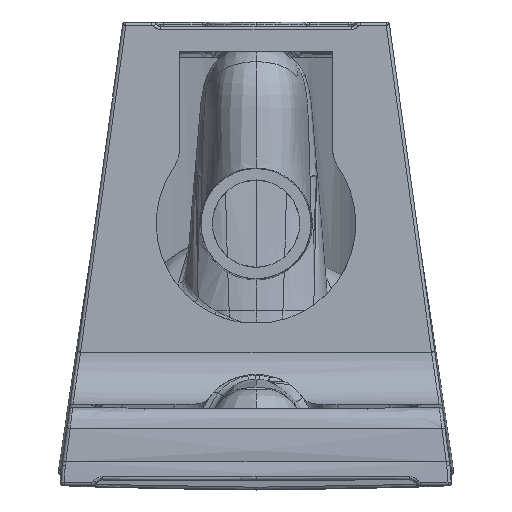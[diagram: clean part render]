
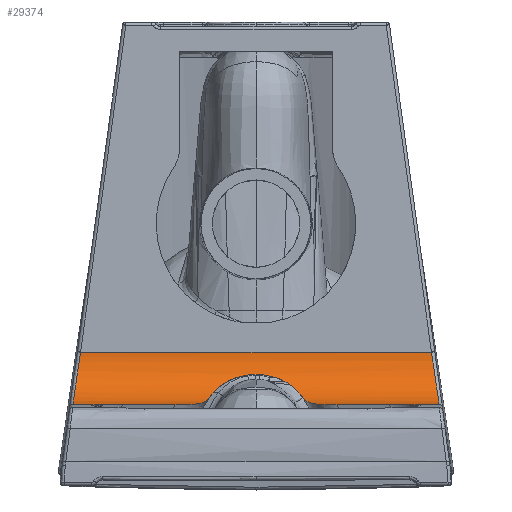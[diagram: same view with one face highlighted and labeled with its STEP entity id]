
A CAD part, front view. The second image highlights one B-rep face of the part: STEP entity #29374.
In plain terms, the highlighted cylindrical face has radius 50 mm (diameter 100 mm), a partial arc.
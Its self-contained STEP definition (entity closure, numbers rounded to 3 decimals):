
#3547=CARTESIAN_POINT('',(-124.104,-227.174,
65.068));
#3567=DIRECTION('',(-1.,0.,0.));
#3568=VECTOR('',#3567,45.72);
#3569=CARTESIAN_POINT('',(169.824,-227.174,65.068));
#3570=LINE('',#3569,#3568);
#3571=DIRECTION('',(-1.,0.,0.));
#3572=VECTOR('',#3571,48.902);
#3573=CARTESIAN_POINT('',(124.104,-227.174,65.068));
#3574=LINE('',#3573,#3572);
#3575=CARTESIAN_POINT('',(43.511,-204.426,71.447));
#3576=CARTESIAN_POINT('',(42.63,-202.209,72.693));
#3577=CARTESIAN_POINT('',(40.563,-198.207,75.382));
#3578=CARTESIAN_POINT('',(36.405,-193.393,79.689));
#3579=CARTESIAN_POINT('',(31.399,-189.818,83.738));
#3580=CARTESIAN_POINT('',(25.011,-187.04,87.612));
#3581=CARTESIAN_POINT('',(17.519,-185.214,90.695));
#3582=CARTESIAN_POINT('',(9.618,-184.207,92.643));
#3583=CARTESIAN_POINT('',(3.337,-183.939,93.201));
#3584=CARTESIAN_POINT('',(0.003,-183.944,
93.19));
#3586=DIRECTION('',(-1.,0.,0.));
#3587=VECTOR('',#3586,48.903);
#3588=CARTESIAN_POINT('',(-75.201,-227.174,
65.068));
#3589=LINE('',#3588,#3587);
#3590=DIRECTION('',(-1.,0.,0.));
#3591=VECTOR('',#3590,45.72);
#3592=CARTESIAN_POINT('',(-124.104,-227.174,
65.068));
#3593=LINE('',#3592,#3591);
#3594=CARTESIAN_POINT('',(-169.825,-227.174,
65.068));
#3595=CARTESIAN_POINT('',(-169.812,-224.048,
65.177));
#3596=CARTESIAN_POINT('',(-169.702,-217.806,
65.984));
#3597=CARTESIAN_POINT('',(-169.28,-208.802,
68.937));
#3598=CARTESIAN_POINT('',(-168.625,-200.496,
73.54));
#3599=CARTESIAN_POINT('',(-167.752,-193.212,
79.613));
#3600=CARTESIAN_POINT('',(-166.679,-187.197,
86.944));
#3601=CARTESIAN_POINT('',(-165.455,-182.65,
95.305));
#3602=CARTESIAN_POINT('',(-164.12,-179.754,
104.398));
#3603=CARTESIAN_POINT('',(-163.198,-179.003,
110.73));
#3604=CARTESIAN_POINT('',(-162.726,-178.932,
113.906));
#3606=DIRECTION('',(1.,0.,0.));
#3607=VECTOR('',#3606,325.451);
#3608=CARTESIAN_POINT('',(-162.726,-178.932,
113.906));
#3609=LINE('',#3608,#3607);
#3610=CARTESIAN_POINT('',(162.725,-178.932,113.906));
#3611=CARTESIAN_POINT('',(164.566,-179.216,101.37));
#3612=CARTESIAN_POINT('',(168.215,-189.685,76.502));
#3613=CARTESIAN_POINT('',(169.779,-214.522,65.51));
#3614=CARTESIAN_POINT('',(169.824,-227.174,65.068));
#6054=CARTESIAN_POINT('',(-75.201,-227.174,
65.068));
#6055=CARTESIAN_POINT('',(-72.794,-227.174,
65.068));
#6056=CARTESIAN_POINT('',(-68.128,-226.665,
65.082));
#6057=CARTESIAN_POINT('',(-61.478,-224.422,
65.212));
#6058=CARTESIAN_POINT('',(-55.468,-220.793,
65.639));
#6059=CARTESIAN_POINT('',(-50.295,-215.943,
66.65));
#6060=CARTESIAN_POINT('',(-46.291,-210.435,68.443));
#6061=CARTESIAN_POINT('',(-44.318,-206.455,
70.307));
#6062=CARTESIAN_POINT('',(-43.512,-204.427,
71.447));
#6101=CARTESIAN_POINT('',(-43.512,-204.427,
71.447));
#6102=CARTESIAN_POINT('',(-42.629,-202.205,
72.695));
#6103=CARTESIAN_POINT('',(-40.557,-198.196,
75.39));
#6104=CARTESIAN_POINT('',(-36.381,-193.37,
79.711));
#6105=CARTESIAN_POINT('',(-31.354,-189.792,
83.77));
#6106=CARTESIAN_POINT('',(-24.933,-187.014,
87.651));
#6107=CARTESIAN_POINT('',(-17.448,-185.202,
90.717));
#6108=CARTESIAN_POINT('',(-9.557,-184.203,
92.651));
#6109=CARTESIAN_POINT('',(-3.307,-183.938,
93.202));
#6110=CARTESIAN_POINT('',(0.003,-183.944,
93.19));
#6172=CARTESIAN_POINT('',(43.511,-204.426,71.447));
#6173=CARTESIAN_POINT('',(44.321,-206.466,70.301));
#6174=CARTESIAN_POINT('',(46.304,-210.467,68.428));
#6175=CARTESIAN_POINT('',(50.374,-216.037,66.624));
#6176=CARTESIAN_POINT('',(55.557,-220.862,65.628));
#6177=CARTESIAN_POINT('',(61.62,-224.487,65.207));
#6178=CARTESIAN_POINT('',(68.197,-226.673,65.082));
#6179=CARTESIAN_POINT('',(72.821,-227.174,65.068));
#6180=CARTESIAN_POINT('',(75.202,-227.174,65.068));
#15085=VERTEX_POINT('',#3547);
#15089=CARTESIAN_POINT('',(-169.825,-227.174,
65.068));
#15090=VERTEX_POINT('',#15089);
#15092=CARTESIAN_POINT('',(169.824,-227.174,
65.068));
#15093=CARTESIAN_POINT('',(124.104,-227.174,
65.068));
#15094=VERTEX_POINT('',#15092);
#15095=VERTEX_POINT('',#15093);
#15096=CARTESIAN_POINT('',(75.202,-227.174,
65.068));
#15097=VERTEX_POINT('',#15096);
#15098=VERTEX_POINT('',#6172);
#15099=VERTEX_POINT('',#3584);
#15100=VERTEX_POINT('',#6101);
#15101=VERTEX_POINT('',#6054);
#15102=VERTEX_POINT('',#3604);
#15103=CARTESIAN_POINT('',(162.725,-178.932,
113.906));
#15104=VERTEX_POINT('',#15103);
#29346=CARTESIAN_POINT('',(384.6,-228.919,115.038));
#29347=DIRECTION('',(-1.,0.,0.));
#29348=DIRECTION('',(0.,1.,0.));
#29349=AXIS2_PLACEMENT_3D('',#29346,#29347,#29348);
#29350=CYLINDRICAL_SURFACE('',#29349,50.);
#29352=ORIENTED_EDGE('',*,*,#29351,.T.);
#29354=ORIENTED_EDGE('',*,*,#29353,.T.);
#29356=ORIENTED_EDGE('',*,*,#29355,.F.);
#29358=ORIENTED_EDGE('',*,*,#29357,.T.);
#29360=ORIENTED_EDGE('',*,*,#29359,.F.);
#29362=ORIENTED_EDGE('',*,*,#29361,.F.);
#29364=ORIENTED_EDGE('',*,*,#29363,.T.);
#29365=ORIENTED_EDGE('',*,*,#29335,.T.);
#29367=ORIENTED_EDGE('',*,*,#29366,.T.);
#29369=ORIENTED_EDGE('',*,*,#29368,.T.);
#29371=ORIENTED_EDGE('',*,*,#29370,.T.);
#29372=EDGE_LOOP('',(#29352,#29354,#29356,#29358,#29360,#29362,#29364,#29365,
#29367,#29369,#29371));
#29373=FACE_OUTER_BOUND('',#29372,.F.);
#3585=B_SPLINE_CURVE_WITH_KNOTS('',3,(#3575,#3576,#3577,#3578,#3579,#3580,#3581,
#3582,#3583,#3584),.UNSPECIFIED.,.F.,.F.,(4,1,1,1,1,1,1,4),(0.,
0.143,0.286,0.429,0.571,
0.714,0.857,1.),.UNSPECIFIED.);
#3605=B_SPLINE_CURVE_WITH_KNOTS('',3,(#3594,#3595,#3596,#3597,#3598,#3599,#3600,
#3601,#3602,#3603,#3604),.UNSPECIFIED.,.F.,.F.,(4,1,1,1,1,1,1,1,4),(0.,
0.125,0.25,0.375,0.5,0.625,0.75,0.875,1.),.UNSPECIFIED.);
#3615=B_SPLINE_CURVE_WITH_KNOTS('',3,(#3610,#3611,#3612,#3613,#3614),
.UNSPECIFIED.,.F.,.F.,(4,1,4),(0.,0.5,1.),.UNSPECIFIED.);
#6063=B_SPLINE_CURVE_WITH_KNOTS('',3,(#6054,#6055,#6056,#6057,#6058,#6059,#6060,
#6061,#6062),.UNSPECIFIED.,.F.,.F.,(4,1,1,1,1,1,4),(0.,0.167,
0.333,0.5,0.667,0.833,1.),
.UNSPECIFIED.);
#6111=B_SPLINE_CURVE_WITH_KNOTS('',3,(#6101,#6102,#6103,#6104,#6105,#6106,#6107,
#6108,#6109,#6110),.UNSPECIFIED.,.F.,.F.,(4,1,1,1,1,1,1,4),(0.,
0.143,0.286,0.429,0.571,
0.714,0.857,1.),.UNSPECIFIED.);
#6181=B_SPLINE_CURVE_WITH_KNOTS('',3,(#6172,#6173,#6174,#6175,#6176,#6177,#6178,
#6179,#6180),.UNSPECIFIED.,.F.,.F.,(4,1,1,1,1,1,4),(0.,0.167,
0.333,0.5,0.667,0.833,1.),
.UNSPECIFIED.);
#29335=EDGE_CURVE('',#15085,#15090,#3593,.T.);
#29351=EDGE_CURVE('',#15094,#15095,#3570,.T.);
#29353=EDGE_CURVE('',#15095,#15097,#3574,.T.);
#29355=EDGE_CURVE('',#15098,#15097,#6181,.T.);
#29357=EDGE_CURVE('',#15098,#15099,#3585,.T.);
#29359=EDGE_CURVE('',#15100,#15099,#6111,.T.);
#29361=EDGE_CURVE('',#15101,#15100,#6063,.T.);
#29363=EDGE_CURVE('',#15101,#15085,#3589,.T.);
#29366=EDGE_CURVE('',#15090,#15102,#3605,.T.);
#29368=EDGE_CURVE('',#15102,#15104,#3609,.T.);
#29370=EDGE_CURVE('',#15104,#15094,#3615,.T.);
#29374=ADVANCED_FACE('',(#29373),#29350,.F.);
